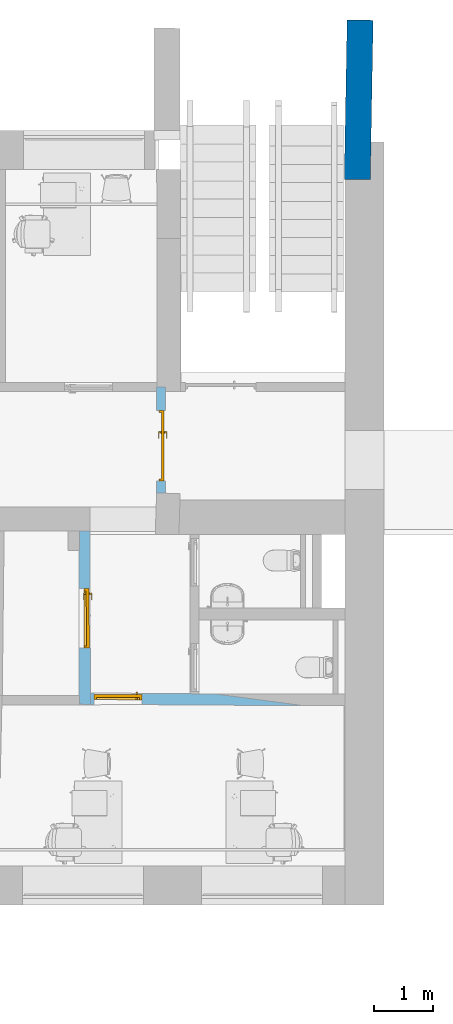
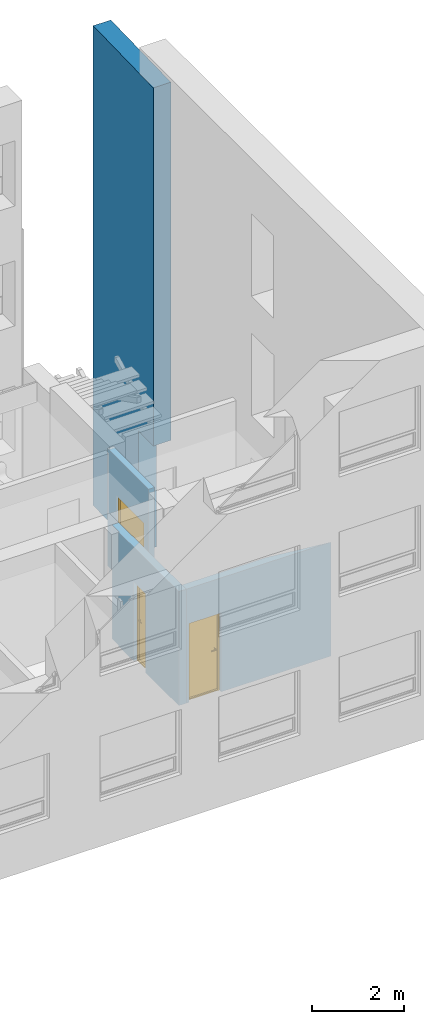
# One storey, part 18 of 25: 3 doors, 1 wall, 3 openings, plus 3 elements that do not belong to this part.
"""IFC2X3 building model written with IfcOpenShell, lengths in millimetres."""

from ifc_helpers import new_model, entity, si_unit, converted_unit, derived_unit, direction, frame, frame_2d, origin, place, context, subcontext, project, spatial, polyline, rectangle, outline, extrude, clip, bounded_halfspace, faceted_brep, source, transform, mapped, material, material_list, layer, layer_set, layer_usage, type_object, type_shapes, element, fill, save


model = new_model("IFC2X3")

# Units and contexts
model_context = context("Model", 3, precision=0.01, world=origin(), true_north=direction((6.12303176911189e-17, 1.0)))
context_of_model = context(None, 3, precision=0.01, world=origin(), true_north=direction((6.12303176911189e-17, 1.0)))
body_context = subcontext(model_context, "Body", "Model", "MODEL_VIEW")
ifc_project = project(units=[si_unit("LENGTHUNIT", "METRE", prefix="MILLI"), si_unit("AREAUNIT", "SQUARE_METRE"), si_unit("VOLUMEUNIT", "CUBIC_METRE"), converted_unit("PLANEANGLEUNIT", "DEGREE", entity("IfcRatioMeasure", 0.0174532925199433), si_unit("PLANEANGLEUNIT", "RADIAN"), dimensions=[0, 0, 0, 0, 0, 0, 0]), si_unit("MASSUNIT", "GRAM", prefix="KILO"), derived_unit("MASSDENSITYUNIT", [(si_unit("MASSUNIT", "GRAM", prefix="KILO"), 1), (si_unit("LENGTHUNIT", "METRE"), -3)]), si_unit("TIMEUNIT", "SECOND"), si_unit("FREQUENCYUNIT", "HERTZ"), si_unit("THERMODYNAMICTEMPERATUREUNIT", "DEGREE_CELSIUS"), derived_unit("THERMALTRANSMITTANCEUNIT", [(si_unit("MASSUNIT", "GRAM", prefix="KILO"), 1), (si_unit("THERMODYNAMICTEMPERATUREUNIT", "KELVIN"), -1), (si_unit("TIMEUNIT", "SECOND"), -3)]), derived_unit("VOLUMETRICFLOWRATEUNIT", [(si_unit("LENGTHUNIT", "METRE"), 3), (si_unit("TIMEUNIT", "SECOND"), -1)]), si_unit("ELECTRICCURRENTUNIT", "AMPERE"), si_unit("ELECTRICVOLTAGEUNIT", "VOLT"), si_unit("POWERUNIT", "WATT"), si_unit("FORCEUNIT", "NEWTON", prefix="KILO"), si_unit("ILLUMINANCEUNIT", "LUX"), si_unit("LUMINOUSFLUXUNIT", "LUMEN"), si_unit("LUMINOUSINTENSITYUNIT", "CANDELA"), derived_unit("USERDEFINED", [(si_unit("MASSUNIT", "GRAM", prefix="KILO"), -1), (si_unit("LENGTHUNIT", "METRE"), -2), (si_unit("TIMEUNIT", "SECOND"), 3), (si_unit("LUMINOUSFLUXUNIT", "LUMEN"), 1)]), derived_unit("LINEARVELOCITYUNIT", [(si_unit("LENGTHUNIT", "METRE"), 1), (si_unit("TIMEUNIT", "SECOND"), -1)]), si_unit("PRESSUREUNIT", "PASCAL"), derived_unit("USERDEFINED", [(si_unit("LENGTHUNIT", "METRE"), -2), (si_unit("MASSUNIT", "GRAM", prefix="KILO"), 1), (si_unit("TIMEUNIT", "SECOND"), -2)])], contexts=[model_context, context_of_model])

# Site, building, storey
site_placement = place(None, frame((121442.264707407, 135347.995453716, -1800.0)))
site = spatial("IfcSite", under=ifc_project, at=site_placement, Name="Surface", CompositionType="ELEMENT")
building_placement = place(site_placement, origin())
building = spatial("IfcBuilding", under=site, at=building_placement, CompositionType="ELEMENT")
storey_placement = place(building_placement, frame((0.0, 0.0, 1800.0)))
storey = spatial("IfcBuildingStorey", under=building, at=storey_placement, Name="1 korrus", CompositionType="ELEMENT", Elevation=1800.00000000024)

# Wall
ifc_material_1 = material(Name="NCS S 2570-R Syvä punainen, matta, ruisku")
ifc_material_2 = material(Name="__Betoonelement")
ifc_material_list_1 = material_list([ifc_material_1, ifc_material_2])
wall_type_1 = type_object("IfcWallType", Name="Basic Wall:44_Betoon", PredefinedType="NOTDEFINED")
wall_1_placement = place(storey_placement, frame((-82269.686818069, -112807.780032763, -3290.0), z_axis=(0.0, 0.0, 1.0), x_axis=(-0.0177595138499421, -0.999842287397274, 0.0)))
element("IfcWall", 1, at=wall_1_placement, inside=storey, type_object=wall_type_1, material=ifc_material_list_1, Name="Basic Wall:44_Betoon", ObjectType="Basic Wall:44_Betoon", context=body_context, shape_type="Brep", body=[
    faceted_brep([(2703.95558630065, -220.500000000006, 12757.4620923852), (174.107136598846, -220.499999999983, 12757.4620923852), (3.10290387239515, -220.499999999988, 12757.4620923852), (3.10290387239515, -220.499999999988, 0.0), (88.6050202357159, -220.499999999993, 0.0), (2047.09361515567, -220.499999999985, 0.0), (2047.09361515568, -220.499999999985, 38.750000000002), (364.318527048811, -220.499999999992, 38.7499999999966), (364.318527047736, -220.499999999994, 1605.0), (1791.11785983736, -220.499999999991, 1605.0), (1791.1178598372, -220.499999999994, 1383.35369645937), (2047.0936151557, -220.499999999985, 1383.35369645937), (2047.09361515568, -220.499999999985, 3230.66893549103), (2703.95558630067, -220.500000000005, 3230.66893549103), (0.0, 220.500000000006, 12757.4620923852), (2696.12240530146, 220.500000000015, 12757.4620923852), (2696.12240530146, 220.500000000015, 3230.66893549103), (2045.12951576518, 220.500000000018, 3230.66893549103), (2045.12951576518, 220.500000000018, 0.0), (0.0, 220.500000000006, 0.0), (2046.9605034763, -190.612382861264, 1383.35369645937), (2046.9605034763, -190.612382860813, 38.750000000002), (1790.66784685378, -195.164733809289, 1383.35369645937), (1790.66784685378, -195.164733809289, 1605.0)], [[[0, 1, 2, 3, 4, 5, 6, 7, 8, 9, 10, 11, 12, 13]], [[14, 15, 16, 17, 18, 19]], [[3, 19, 18, 5, 4]], [[2, 1, 0, 15, 14]], [[3, 2, 14, 19]], [[12, 17, 16, 13]], [[17, 12, 11, 20, 21, 6, 5, 18]], [[22, 23, 8, 7, 21, 20]], [[23, 22, 10, 9]], [[22, 20, 11, 10]], [[21, 7, 6]], [[8, 23, 9]], [[15, 0, 13, 16]]]),
])

# Wall, opening, door
ifc_layer_1 = layer(ifc_material_2, 190.0)
ifc_layer_set_1 = layer_set([ifc_layer_1], Name="Basic Wall:19_Betoon 2")
ifc_layer_usage_1 = layer_usage(ifc_layer_set_1, "AXIS2", "NEGATIVE", 95.0)
wall_type_2 = type_object("IfcWallType", Name="Basic Wall:19_Betoon 2", PredefinedType="STANDARD", material=ifc_layer_set_1)
wall_2_placement = place(storey_placement, frame((-86939.1925124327, -121464.313343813, 0.0), z_axis=(0.0, 0.0, 1.0), x_axis=(0.0026681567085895, -0.999996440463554, 0.0)))
wall_2 = element("IfcWallStandardCase", 2, at=wall_2_placement, inside=storey, type_object=wall_type_2, material=ifc_layer_usage_1, Name="Basic Wall:19_Betoon 2", ObjectType="Basic Wall:19_Betoon 2", context=body_context, shape_type="Clipping", body=[
    clip(clip(clip(extrude(outline(polyline([(2930.03549692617, -95.0), (2931.80104966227, 95.0), (2741.7928467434, 95.0), (0.0, 95.0), (-0.464758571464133, -79.1865144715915), (324.534084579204, -80.0536654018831), (324.494205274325, -95.0), (2780.16063503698, -95.0), (2930.03549692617, -95.0)])), origin(), (0.0, 0.0, 1.0), 3032.0), bounded_halfspace(frame((2930.03549692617, -95.0, 3032.0), z_axis=(0.0, 0.0, -1.0), x_axis=(0.999996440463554, -0.0026681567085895, 0.0)), True, frame((2930.03549692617, -95.0, 3032.0)), polyline([(0.0, 0.0), (1.76555273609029, 190.0), (-188.242650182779, 190.0), (-2930.03549692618, 190.0), (-2930.50025549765, 15.8134855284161), (-2605.50141234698, 14.9463345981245), (-2605.54129165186, 0.0), (-149.874861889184, 0.0), (0.0, 0.0)]))), bounded_halfspace(frame((324.534084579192, -80.0536654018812, 0.0), z_axis=(0.0026681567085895, 0.999996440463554, 0.0), x_axis=(-0.999996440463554, 0.0026681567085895, 0.0)), True, frame((324.534084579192, -80.0536654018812, 0.0), z_axis=(0.0026681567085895, 0.999996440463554, 0.0), x_axis=(-0.999996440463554, 0.0026681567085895, 0.0)), polyline([(0.0, 0.0), (325.0, 0.0), (325.0, 3032.0), (0.0, 3032.0), (0.0, 0.0)]))), bounded_halfspace(frame((324.534084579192, -80.0536654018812, 3032.0), z_axis=(0.999996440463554, -0.0026681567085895, 0.0), x_axis=(-0.0026681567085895, -0.999996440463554, 0.0)), True, frame((324.534084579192, -80.0536654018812, 3032.0), z_axis=(0.999996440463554, -0.0026681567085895, 0.0), x_axis=(-0.0026681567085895, -0.999996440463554, 0.0)), polyline([(0.0, 0.0), (14.9463878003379, 0.0), (14.9463878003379, 3032.0), (0.0, 3032.0), (0.0, 0.0)]))),
])
opening_1_placement = place(wall_2_placement, frame((970.919265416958, -96.3474191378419, 0.0)))
opening_1 = element("IfcOpeningElement", 3, at=opening_1_placement, cuts=wall_2, Name="sma_D01:1010 x 2110_SU-05 Siseuks:1", ObjectType="Opening", context=body_context, shape_type="SweptSolid", body=[
    extrude(rectangle(XDim=2099.99999999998, YDim=1010.0, at=frame_2d((1049.99999999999, 505.0), x_axis=(1.0, 0.0))), frame((0.0, 0.0, 0.0), z_axis=(-0.0026681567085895, 0.999996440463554, 0.0), x_axis=(0.0, 0.0, 1.0)), (0.0, 0.0, 1.0), 190.0),
])
ifc_material_3 = material(Name="Metal - Aluminium")
ifc_material_4 = material(Name="Door - Panel_valge")
ifc_material_list_2 = material_list([ifc_material_3, ifc_material_4])
ifc_material_list_3 = material_list([ifc_material_3, ifc_material_4])
door_style_1 = type_object("IfcDoorStyle", Name="1010 x 2110_SU-05 Siseuks", ConstructionType="NOTDEFINED", OperationType="SINGLE_SWING_RIGHT", ParameterTakesPrecedence=False, Sizeable=False, material=ifc_material_list_3)
shared_shape_1 = source(origin(), body_context, "Body", "Brep", [
    faceted_brep([(100.0, 80.0, 1112.5), (100.0, 118.0, 1112.5), (75.0, 118.0, 1112.5), (75.0, 75.0, 1112.5), (195.0, 75.0, 1112.5), (195.0, 80.0, 1112.5), (100.0, 80.0, 1087.5), (195.0, 80.0, 1087.5), (195.0, 75.0, 1087.5), (75.0, 75.0, 1087.5), (75.0, 118.0, 1087.5), (100.0, 118.0, 1087.5)], [[[0, 1, 2, 3, 4, 5]], [[6, 7, 8, 9, 10, 11]], [[1, 0, 6, 11]], [[2, 1, 11, 10]], [[3, 2, 10, 9]], [[4, 3, 9, 8]], [[5, 4, 8, 7]], [[0, 5, 7, 6]]]),
    faceted_brep([(112.499999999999, 118.0, 1137.5), (112.499999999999, 120.0, 1137.5), (62.4999999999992, 120.0, 1137.5), (62.4999999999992, 118.0, 1137.5), (112.499999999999, 118.0, 1017.5), (62.4999999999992, 118.0, 1017.5), (62.4999999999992, 120.0, 1017.5), (112.499999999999, 120.0, 1017.5)], [[[0, 1, 2, 3]], [[4, 5, 6, 7]], [[1, 0, 4, 7]], [[2, 1, 7, 6]], [[3, 2, 6, 5]], [[0, 3, 5, 4]]]),
    faceted_brep([(100.0, 210.0, 1112.5), (195.0, 210.0, 1112.5), (195.0, 215.0, 1112.5), (75.0, 215.0, 1112.5), (75.0, 172.0, 1112.5), (100.0, 172.0, 1112.5), (100.0, 210.0, 1087.5), (100.0, 172.0, 1087.5), (75.0, 172.0, 1087.5), (75.0, 215.0, 1087.5), (195.0, 215.0, 1087.5), (195.0, 210.0, 1087.5)], [[[0, 1, 2, 3, 4, 5]], [[6, 7, 8, 9, 10, 11]], [[5, 7, 6, 0]], [[4, 8, 7, 5]], [[3, 9, 8, 4]], [[2, 10, 9, 3]], [[1, 11, 10, 2]], [[0, 6, 11, 1]]]),
    faceted_brep([(112.499999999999, 172.0, 1137.5), (62.4999999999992, 172.0, 1137.5), (62.4999999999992, 170.0, 1137.5), (112.499999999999, 170.0, 1137.5), (112.499999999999, 172.0, 1017.5), (112.499999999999, 170.0, 1017.5), (62.4999999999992, 170.0, 1017.5), (62.4999999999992, 172.0, 1017.5)], [[[0, 1, 2, 3]], [[4, 5, 6, 7]], [[3, 5, 4, 0]], [[2, 6, 5, 3]], [[1, 7, 6, 2]], [[0, 4, 7, 1]]]),
    faceted_brep([(1010.0, 80.0, 0.0), (970.0, 80.0, 0.0), (970.0, 120.0, 0.0), (985.0, 120.0, 0.0), (985.0, 170.0, 0.0), (1010.0, 170.0, 0.0), (1010.0, 80.0, 2100.0), (0.0, 80.0, 2100.0), (0.0, 80.0, 0.0), (40.0, 80.0, 0.0), (40.0, 80.0, 2060.0), (970.0, 80.0, 2060.0), (970.0, 120.0, 2060.0), (40.0, 120.0, 2060.0), (40.0, 120.0, 0.0), (25.0, 120.0, 0.0), (25.0, 120.0, 2075.0), (985.0, 120.0, 2075.0), (985.0, 170.0, 2075.0), (25.0, 170.0, 2075.0), (25.0, 170.0, 0.0), (0.0, 170.0, 0.0), (0.0, 170.0, 2100.0), (1010.0, 170.0, 2100.0)], [[[0, 1, 2, 3, 4, 5]], [[1, 0, 6, 7, 8, 9, 10, 11]], [[2, 1, 11, 12]], [[3, 2, 12, 13, 14, 15, 16, 17]], [[4, 3, 17, 18]], [[5, 4, 18, 19, 20, 21, 22, 23]], [[0, 5, 23, 6]], [[7, 22, 21, 8]], [[8, 21, 20, 15, 14, 9]], [[13, 10, 9, 14]], [[19, 16, 15, 20]], [[12, 11, 10, 13]], [[18, 17, 16, 19]], [[6, 23, 22, 7]]]),
    faceted_brep([(25.0, 120.0, 2075.0), (25.0, 120.0, 20.0), (985.0, 120.0, 20.0), (985.0, 120.0, 2075.0), (25.0, 170.0, 2075.0), (985.0, 170.0, 2075.0), (985.0, 170.0, 20.0), (25.0, 170.0, 20.0)], [[[0, 1, 2, 3]], [[4, 5, 6, 7]], [[1, 0, 4, 7]], [[2, 1, 7, 6]], [[3, 2, 6, 5]], [[0, 3, 5, 4]]]),
    faceted_brep([(970.0, 80.0, 30.0), (970.0, 80.0, 0.0), (970.0, 120.0, 0.0), (970.0, 120.0, 20.0), (970.0, 120.0, 30.0), (40.0, 80.0, 30.0), (40.0, 120.0, 30.0), (40.0, 120.0, 20.0), (40.0, 120.0, 0.0), (40.0, 80.0, 0.0), (25.0, 120.0, 0.0), (25.0, 170.0, 0.0), (985.0, 170.0, 0.0), (985.0, 120.0, 0.0), (985.0, 170.0, 20.0), (985.0, 120.0, 20.0), (25.0, 170.0, 20.0), (25.0, 120.0, 20.0)], [[[0, 1, 2, 3, 4]], [[5, 6, 7, 8, 9]], [[1, 0, 5, 9]], [[2, 1, 9, 8, 10, 11, 12, 13]], [[6, 4, 3, 7]], [[0, 4, 6, 5]], [[14, 15, 13, 12]], [[16, 11, 10, 17]], [[15, 14, 16, 17, 7, 3]], [[13, 15, 3, 2]], [[14, 12, 11, 16]], [[17, 10, 8, 7]]]),
])
type_shapes(door_style_1, [shared_shape_1])
door_1_placement = place(opening_1_placement, frame((0.0, 3.93765495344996, 0.0)))
door_1 = element("IfcDoor", 4, at=door_1_placement, inside=storey, type_object=door_style_1, material=ifc_material_list_2, Name="sma_D01:1010 x 2110_SU-05 Siseuks", ObjectType="1010 x 2110_SU-05 Siseuks", OverallHeight=2099.99999999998, OverallWidth=1010.00000000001, context=body_context, shape_type="MappedRepresentation", body=[
    mapped(shared_shape_1, transform((0.0, 0.0, 0.0), scale=1.0)),
])
fill(opening_1, door_1)

ifc_layer_usage_2 = layer_usage(ifc_layer_set_1, "AXIS2", "NEGATIVE", 95.0)
wall_3_placement = place(storey_placement, frame((-83217.0140886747, -124324.823203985, 0.0), z_axis=(0.0, 0.0, 1.0), x_axis=(-0.99997806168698, 0.00662390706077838, 0.0)))
wall_3 = element("IfcWallStandardCase", 5, at=wall_3_placement, inside=storey, type_object=wall_type_2, material=ifc_layer_usage_2, Name="Basic Wall:19_Betoon 2", ObjectType="Basic Wall:19_Betoon 2", context=body_context, shape_type="Clipping", body=[
    clip(extrude(outline(polyline([(1510.31229570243, -95.0), (3620.57192934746, -95.0), (3618.80637661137, 95.0), (0.0, 95.0), (1510.31229570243, -95.0)])), origin(), (0.0, 0.0, 1.0), 3032.0), bounded_halfspace(frame((1510.31229570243, -95.0, 3032.0), z_axis=(0.0, 0.0, -1.0), x_axis=(-0.00662390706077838, 0.99997806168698, 0.0)), True, frame((1510.31229570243, -95.0, 3032.0)), polyline([(0.0, 0.0), (2110.25963364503, 0.0), (2108.49408090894, 190.0), (-1510.31229570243, 190.0), (0.0, 0.0)]))),
])
opening_2_placement = place(wall_3_placement, frame((3556.81162531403, 95.0, 0.0)))
opening_2 = element("IfcOpeningElement", 6, at=opening_2_placement, cuts=wall_3, Name="sma_D01:810 x 2110_SU-01 Siseuks:1", ObjectType="Opening", context=body_context, shape_type="SweptSolid", body=[
    extrude(rectangle(XDim=2099.99999999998, YDim=810.0, at=frame_2d((1049.99999999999, 405.0), x_axis=(1.0, 0.0))), frame((0.0, 0.0, 0.0), z_axis=(0.0, -1.0, 0.0), x_axis=(0.0, 0.0, 1.0)), (0.0, 0.0, 1.0), 190.0),
])
ifc_material_list_4 = material_list([ifc_material_3, ifc_material_4])
ifc_material_list_5 = material_list([ifc_material_3, ifc_material_4])
door_style_2 = type_object("IfcDoorStyle", Name="810 x 2110_SU-01 Siseuks", ConstructionType="NOTDEFINED", OperationType="SINGLE_SWING_LEFT", ParameterTakesPrecedence=False, Sizeable=False, material=ifc_material_list_5)
shared_shape_2 = source(origin(), body_context, "Body", "Brep", [
    faceted_brep([(710.0, 80.0, 1112.5), (615.0, 80.0, 1112.5), (615.0, 75.0, 1112.5), (735.0, 75.0, 1112.5), (735.0, 118.0, 1112.5), (710.0, 118.0, 1112.5), (710.0, 80.0, 1087.5), (710.0, 118.0, 1087.5), (735.0, 118.0, 1087.5), (735.0, 75.0, 1087.5), (615.0, 75.0, 1087.5), (615.0, 80.0, 1087.5)], [[[0, 1, 2, 3, 4, 5]], [[6, 7, 8, 9, 10, 11]], [[5, 7, 6, 0]], [[4, 8, 7, 5]], [[3, 9, 8, 4]], [[2, 10, 9, 3]], [[1, 11, 10, 2]], [[0, 6, 11, 1]]]),
    faceted_brep([(697.500000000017, 118.0, 1137.5), (747.500000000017, 118.0, 1137.5), (747.500000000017, 120.0, 1137.5), (697.500000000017, 120.0, 1137.5), (697.500000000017, 118.0, 1017.5), (697.500000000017, 120.0, 1017.5), (747.500000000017, 120.0, 1017.5), (747.500000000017, 118.0, 1017.5)], [[[0, 1, 2, 3]], [[4, 5, 6, 7]], [[3, 5, 4, 0]], [[2, 6, 5, 3]], [[1, 7, 6, 2]], [[0, 4, 7, 1]]]),
    faceted_brep([(710.0, 210.0, 1112.5), (710.0, 172.0, 1112.5), (735.0, 172.0, 1112.5), (735.0, 215.0, 1112.5), (615.0, 215.0, 1112.5), (615.0, 210.0, 1112.5), (710.0, 210.0, 1087.5), (615.0, 210.0, 1087.5), (615.0, 215.0, 1087.5), (735.0, 215.0, 1087.5), (735.0, 172.0, 1087.5), (710.0, 172.0, 1087.5)], [[[0, 1, 2, 3, 4, 5]], [[6, 7, 8, 9, 10, 11]], [[1, 0, 6, 11]], [[2, 1, 11, 10]], [[3, 2, 10, 9]], [[4, 3, 9, 8]], [[5, 4, 8, 7]], [[0, 5, 7, 6]]]),
    faceted_brep([(697.500000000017, 172.0, 1137.5), (697.500000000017, 170.0, 1137.5), (747.500000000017, 170.0, 1137.5), (747.500000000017, 172.0, 1137.5), (697.500000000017, 172.0, 1017.5), (747.500000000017, 172.0, 1017.5), (747.500000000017, 170.0, 1017.5), (697.500000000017, 170.0, 1017.5)], [[[0, 1, 2, 3]], [[4, 5, 6, 7]], [[1, 0, 4, 7]], [[2, 1, 7, 6]], [[3, 2, 6, 5]], [[0, 3, 5, 4]]]),
    faceted_brep([(0.0, 80.0, 0.0), (0.0, 170.0, 0.0), (25.0, 170.0, 0.0), (25.0, 120.0, 0.0), (40.0, 120.0, 0.0), (40.0, 80.0, 0.0), (40.0, 80.0, 2060.0), (770.0, 80.0, 2060.0), (770.0, 80.0, 0.0), (810.0, 80.0, 0.0), (810.0, 80.0, 2100.0), (0.0, 80.0, 2100.0), (40.0, 120.0, 2060.0), (25.0, 120.0, 2075.0), (785.0, 120.0, 2075.0), (785.0, 120.0, 0.0), (770.0, 120.0, 0.0), (770.0, 120.0, 2060.0), (25.0, 170.0, 2075.0), (0.0, 170.0, 2100.0), (810.0, 170.0, 2100.0), (810.0, 170.0, 0.0), (785.0, 170.0, 0.0), (785.0, 170.0, 2075.0)], [[[0, 1, 2, 3, 4, 5]], [[5, 6, 7, 8, 9, 10, 11, 0]], [[4, 12, 6, 5]], [[3, 13, 14, 15, 16, 17, 12, 4]], [[2, 18, 13, 3]], [[1, 19, 20, 21, 22, 23, 18, 2]], [[0, 11, 19, 1]], [[10, 9, 21, 20]], [[9, 8, 16, 15, 22, 21]], [[17, 16, 8, 7]], [[23, 22, 15, 14]], [[12, 17, 7, 6]], [[18, 23, 14, 13]], [[11, 10, 20, 19]]]),
    faceted_brep([(785.0, 120.0, 2075.0), (25.0, 120.0, 2075.0), (25.0, 120.0, 20.0), (785.0, 120.0, 20.0), (785.0, 170.0, 2075.0), (785.0, 170.0, 20.0), (25.0, 170.0, 20.0), (25.0, 170.0, 2075.0)], [[[0, 1, 2, 3]], [[4, 5, 6, 7]], [[3, 5, 4, 0]], [[2, 6, 5, 3]], [[1, 7, 6, 2]], [[0, 4, 7, 1]]]),
    faceted_brep([(40.0, 80.0, 30.0), (40.0, 120.0, 30.0), (40.0, 120.0, 20.0), (40.0, 120.0, 0.0), (40.0, 80.0, 0.0), (770.0, 80.0, 30.0), (770.0, 80.0, 0.0), (770.0, 120.0, 0.0), (770.0, 120.0, 20.0), (770.0, 120.0, 30.0), (25.0, 120.0, 0.0), (25.0, 170.0, 0.0), (785.0, 170.0, 0.0), (785.0, 120.0, 0.0), (25.0, 170.0, 20.0), (25.0, 120.0, 20.0), (785.0, 170.0, 20.0), (785.0, 120.0, 20.0)], [[[0, 1, 2, 3, 4]], [[5, 6, 7, 8, 9]], [[4, 6, 5, 0]], [[3, 10, 11, 12, 13, 7, 6, 4]], [[9, 8, 2, 1]], [[0, 5, 9, 1]], [[14, 11, 10, 15]], [[16, 17, 13, 12]], [[15, 2, 8, 17, 16, 14]], [[10, 3, 2, 15]], [[14, 16, 12, 11]], [[17, 8, 7, 13]]]),
])
type_shapes(door_style_2, [shared_shape_2])
door_2_placement = place(opening_2_placement, frame((0.0, 0.0, 0.0), z_axis=(0.0, 0.0, 1.0), x_axis=(-1.0, 0.0, 0.0)))
door_2 = element("IfcDoor", 7, at=door_2_placement, inside=storey, type_object=door_style_2, material=ifc_material_list_4, Name="sma_D01:810 x 2110_SU-01 Siseuks", ObjectType="810 x 2110_SU-01 Siseuks", OverallHeight=2099.99999999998, OverallWidth=809.999999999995, context=body_context, shape_type="MappedRepresentation", body=[
    mapped(shared_shape_2, transform((0.0, 0.0, 0.0), scale=1.0)),
])
fill(opening_2, door_2)

ifc_material_5 = material(Name="Plaster")
ifc_layer_2 = layer(ifc_material_5, 10.0)
ifc_material_6 = material(Name="EST. Müüritis. Väikeplokk. Kergkruusplokk")
ifc_layer_3 = layer(ifc_material_6, 130.0)
ifc_layer_4 = layer(ifc_material_5, 10.0)
ifc_layer_set_2 = layer_set([ifc_layer_2, ifc_layer_3, ifc_layer_4], Name="Basic Wall:15_FIBO")
ifc_layer_usage_3 = layer_usage(ifc_layer_set_2, "AXIS2", "NEGATIVE", 75.0)
wall_type_3 = type_object("IfcWallType", Name="Basic Wall:15_FIBO", PredefinedType="STANDARD", material=ifc_layer_set_2)
wall_4_placement = place(storey_placement, frame((-85642.9141673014, -120816.168963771, 0.0), z_axis=(0.0, 0.0, 1.0), x_axis=(0.0, 1.0, 0.0)))
wall_4 = element("IfcWallStandardCase", 8, at=wall_4_placement, inside=storey, type_object=wall_type_3, material=ifc_layer_usage_3, Name="Basic Wall:15_FIBO", ObjectType="Basic Wall:15_FIBO", context=body_context, shape_type="SweptSolid", body=[
    extrude(rectangle(XDim=1796.40039923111, YDim=150.000000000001, at=frame_2d((898.200199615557, 0.0), x_axis=(-1.0, 0.0))), origin(), (0.0, 0.0, 1.0), 3125.0),
])
opening_3_placement = place(wall_4_placement, frame((1400.0, 75.0, 0.0)))
opening_3 = element("IfcOpeningElement", 9, at=opening_3_placement, cuts=wall_4, Name="sma_D02:1200 x 2100mm SU-7 Liigendiga siseuks:1", ObjectType="Opening", context=body_context, shape_type="SweptSolid", body=[
    extrude(rectangle(XDim=2099.99999999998, YDim=1200.0, at=frame_2d((1049.99999999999, 600.0), x_axis=(1.0, 0.0))), frame((0.0, 0.0, 0.0), z_axis=(0.0, -1.0, 0.0), x_axis=(0.0, 0.0, 1.0)), (0.0, 0.0, 1.0), 150.0),
])
door_style_3 = type_object("IfcDoorStyle", Name="1200 x 2100mm SU-7 Liigendiga siseuks", ConstructionType="USERDEFINED", OperationType="NOTDEFINED", ParameterTakesPrecedence=False, Sizeable=False, material=ifc_material_3)
shared_shape_3 = source(origin(), body_context, "Body", "Brep", [
    faceted_brep([(387.499999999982, 40.0, 1100.0), (387.499999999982, 78.0, 1100.0), (362.499999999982, 78.0, 1100.0), (362.499999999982, 35.0, 1100.0), (482.499999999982, 35.0, 1100.0), (482.499999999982, 40.0, 1100.0), (387.499999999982, 40.0, 1075.0), (482.499999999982, 40.0, 1075.0), (482.499999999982, 35.0, 1075.0), (362.499999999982, 35.0, 1075.0), (362.499999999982, 78.0, 1075.0), (387.499999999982, 78.0, 1075.0)], [[[0, 1, 2, 3, 4, 5]], [[6, 7, 8, 9, 10, 11]], [[1, 0, 6, 11]], [[2, 1, 11, 10]], [[3, 2, 10, 9]], [[4, 3, 9, 8]], [[5, 4, 8, 7]], [[0, 5, 7, 6]]]),
    faceted_brep([(400.0, 78.0, 1125.0), (400.0, 80.0, 1125.0), (350.0, 80.0, 1125.0), (350.0, 78.0, 1125.0), (400.0, 78.0, 1005.0), (350.0, 78.0, 1005.0), (350.0, 80.0, 1005.0), (400.0, 80.0, 1005.0)], [[[0, 1, 2, 3]], [[4, 5, 6, 7]], [[1, 0, 4, 7]], [[2, 1, 7, 6]], [[3, 2, 6, 5]], [[0, 3, 5, 4]]]),
    faceted_brep([(387.499999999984, 170.432966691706, 1100.0), (482.499999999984, 170.432966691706, 1100.0), (482.499999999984, 175.432966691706, 1100.0), (362.499999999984, 175.432966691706, 1100.0), (362.499999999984, 132.432966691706, 1100.0), (387.499999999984, 132.432966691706, 1100.0), (387.499999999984, 170.432966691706, 1075.0), (387.499999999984, 132.432966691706, 1075.0), (362.499999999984, 132.432966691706, 1075.0), (362.499999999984, 175.432966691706, 1075.0), (482.499999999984, 175.432966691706, 1075.0), (482.499999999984, 170.432966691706, 1075.0)], [[[0, 1, 2, 3, 4, 5]], [[6, 7, 8, 9, 10, 11]], [[5, 7, 6, 0]], [[4, 8, 7, 5]], [[3, 9, 8, 4]], [[2, 10, 9, 3]], [[1, 11, 10, 2]], [[0, 6, 11, 1]]]),
    faceted_brep([(400.0, 132.432966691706, 1125.0), (350.0, 132.432966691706, 1125.0), (350.0, 130.432966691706, 1125.0), (400.0, 130.432966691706, 1125.0), (400.0, 132.432966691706, 1005.0), (400.0, 130.432966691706, 1005.0), (350.0, 130.432966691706, 1005.0), (350.0, 132.432966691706, 1005.0)], [[[0, 1, 2, 3]], [[4, 5, 6, 7]], [[3, 5, 4, 0]], [[2, 6, 5, 3]], [[1, 7, 6, 2]], [[0, 4, 7, 1]]]),
    faceted_brep([(1200.0, 40.4329666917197, 0.0), (1160.0, 40.4329666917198, 0.0), (1160.0, 80.4329666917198, 0.0), (1175.0, 80.4329666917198, 0.0), (1175.0, 130.43296669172, 0.0), (1200.0, 130.43296669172, 0.0), (1200.0, 40.4329666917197, 2100.0), (0.0, 40.4329666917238, 2100.0), (0.0, 40.4329666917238, 0.0), (40.0, 40.4329666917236, 0.0), (40.0, 40.4329666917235, 2060.0), (1160.0, 40.4329666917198, 2060.0), (1160.0, 80.4329666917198, 2060.0), (40.0, 80.4329666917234, 2060.0), (40.0, 80.4329666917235, 0.0), (25.0, 80.4329666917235, 0.0), (25.0, 80.4329666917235, 2075.0), (1175.0, 80.4329666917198, 2075.0), (1175.0, 130.43296669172, 2075.0), (25.0, 130.432966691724, 2075.0), (25.0, 130.432966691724, 0.0), (0.0, 130.432966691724, 0.0), (0.0, 130.432966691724, 2100.0), (1200.0, 130.43296669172, 2100.0)], [[[0, 1, 2, 3, 4, 5]], [[1, 0, 6, 7, 8, 9, 10, 11]], [[2, 1, 11, 12]], [[3, 2, 12, 13, 14, 15, 16, 17]], [[4, 3, 17, 18]], [[5, 4, 18, 19, 20, 21, 22, 23]], [[0, 5, 23, 6]], [[7, 22, 21, 8]], [[8, 21, 20, 15, 14, 9]], [[13, 10, 9, 14]], [[19, 16, 15, 20]], [[12, 11, 10, 13]], [[18, 17, 16, 19]], [[6, 23, 22, 7]]]),
    faceted_brep([(25.0, 80.4329666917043, 20.0), (300.0, 80.4329666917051, 20.0), (300.0, 80.4329666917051, 2075.0), (25.0, 80.4329666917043, 2075.0), (25.0, 130.432966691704, 20.0), (25.0, 130.432966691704, 2075.0), (300.0, 130.432966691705, 2075.0), (300.0, 130.432966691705, 20.0)], [[[0, 1, 2, 3]], [[4, 5, 6, 7]], [[1, 0, 4, 7]], [[2, 1, 7, 6]], [[3, 2, 6, 5]], [[0, 3, 5, 4]]]),
    faceted_brep([(300.0, 80.4329666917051, 2075.0), (300.0, 80.4329666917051, 20.0), (1175.0, 80.4329666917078, 20.0), (1175.0, 80.4329666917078, 2075.0), (300.0, 130.432966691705, 2075.0), (1175.0, 130.432966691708, 2075.0), (1175.0, 130.432966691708, 20.0), (300.0, 130.432966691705, 20.0)], [[[0, 1, 2, 3]], [[4, 5, 6, 7]], [[1, 0, 4, 7]], [[2, 1, 7, 6]], [[3, 2, 6, 5]], [[0, 3, 5, 4]]]),
])
type_shapes(door_style_3, [shared_shape_3])
door_3_placement = place(opening_3_placement, frame((0.0, 0.0, 0.0), z_axis=(0.0, 0.0, 1.0), x_axis=(-1.0, 0.0, 0.0)))
door_3 = element("IfcDoor", 10, at=door_3_placement, inside=storey, type_object=door_style_3, material=ifc_material_3, Name="sma_D02:1200 x 2100mm SU-7 Liigendiga siseuks", ObjectType="1200 x 2100mm SU-7 Liigendiga siseuks", OverallHeight=2099.99999999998, OverallWidth=1200.0, context=body_context, shape_type="MappedRepresentation", body=[
    mapped(shared_shape_3, transform((0.0, 0.0, 0.0), scale=1.0)),
])
fill(opening_3, door_3)

save(model, "model.ifc")
